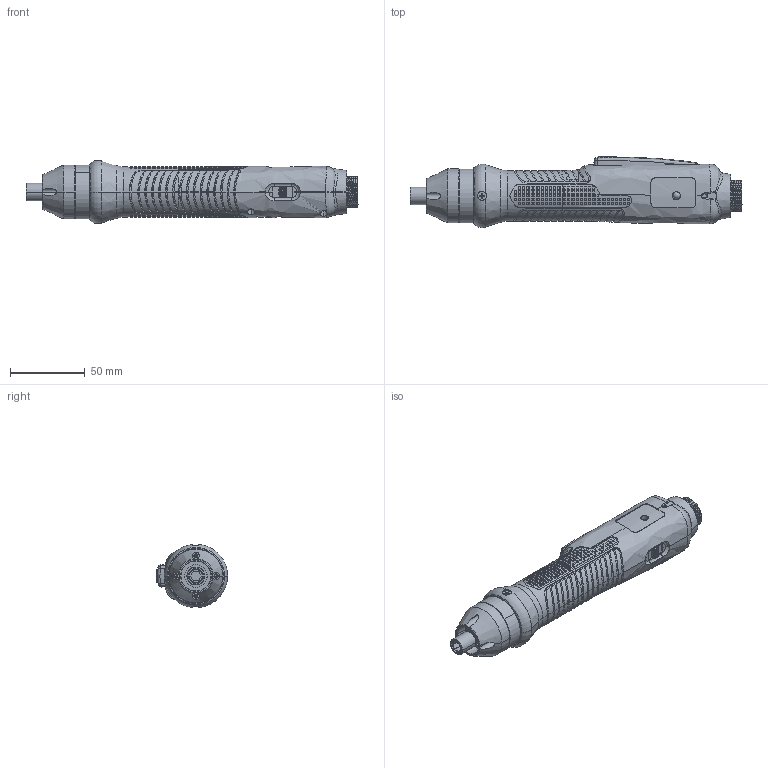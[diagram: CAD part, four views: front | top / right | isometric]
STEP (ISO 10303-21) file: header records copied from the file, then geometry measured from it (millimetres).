
FILE_DESCRIPTION((''),'2;1');
FILE_NAME('MD2601_2602_ASM','2017-09-18T16:09:48',('hantas-design'),(''),'CREO PARAMETRIC BY PTC INC, 2016510','CREO PARAMETRIC BY PTC INC, 2016510','');
FILE_SCHEMA(('CONFIG_CONTROL_DESIGN'));
Products named in the file (35): SINK_HEAD_KS_1023_FC-_M3_X_8-S; MD26-SHORT-LOWER-HOUSING; BEARING_689ZZ_1; C-RING_1; COLLAR-SPRING_1; BALL-1_5_1; 5000705_BIT_COLLAR_A_FOR_SD-600; ISTW-09_SNAP_RING__1; BEARING-SPACER_1; 5000704_BITSOCKET_A_FOR_SD-600_; BIT-SOCKET_ASM_3_ASM_ASM; PIN-2_5X9L_1; BEARING-HOUSING-MD2601_3; BEARING-COVER-MD2601_3; BEARING-CASE_ASM_7_ASM_ASM; BEARING-CASE_ASM_ASM_ASM; FR-SWITCH-COVER-LABEL_1; FR-SWITCH-COVER_6; FR-SWITCH-COVER_ASM_1_ASM_ASM; FR-SWITCH-COVER_ASM_ASM_ASM; LED_AF0; MD26-PCB; SENSOR_1; 1_5-PIN-FEMALE_3; 14P-INSULATOR-CONNECTOR_11; 14P-N-HOUSING_2; 2-PIN-FEMALE_1; 14P-INSULATOR-COVER_8; INSULATOR-ASSY_ASM_4_ASM_ASM; 14P-N-CONNECTOR_ASM_ASM; MD26-PCB_ASSY_ASM_ASM; MD32-LEVER; MD26-SHORT-UPPER-HOUSING; MD2601_ASM_ASM; MD2601_2602_ASM
Assembly tree (50 placements, depth 6):
  MD2601_2602_ASM
    MD2601_ASM_ASM
      SINK_HEAD_KS_1023_FC-_M3_X_8-S  x2
      MD26-SHORT-LOWER-HOUSING
      BEARING-CASE_ASM_ASM_ASM
        BEARING-CASE_ASM_7_ASM_ASM
          BIT-SOCKET_ASM_3_ASM_ASM
            BEARING_689ZZ_1  x2
            C-RING_1
            COLLAR-SPRING_1
            BALL-1_5_1  x2
            5000705_BIT_COLLAR_A_FOR_SD-600
            ISTW-09_SNAP_RING__1
            BEARING-SPACER_1
            5000704_BITSOCKET_A_FOR_SD-600_
          PIN-2_5X9L_1
          BEARING-HOUSING-MD2601_3
          BEARING-COVER-MD2601_3
      FR-SWITCH-COVER_ASM_ASM_ASM
        FR-SWITCH-COVER_ASM_1_ASM_ASM
          FR-SWITCH-COVER-LABEL_1
          FR-SWITCH-COVER_6
      MD26-PCB_ASSY_ASM_ASM
        LED_AF0
        MD26-PCB
        SENSOR_1  x2
        14P-N-CONNECTOR_ASM_ASM
          INSULATOR-ASSY_ASM_4_ASM_ASM
            1_5-PIN-FEMALE_3  x11
            14P-INSULATOR-CONNECTOR_11
            14P-N-HOUSING_2
            2-PIN-FEMALE_1  x3
            14P-INSULATOR-COVER_8
      MD32-LEVER
      MD26-SHORT-UPPER-HOUSING
Bounding box: 222.08 x 47.6 x 41.97 mm (x, y, z)
Volume: 99247.5 mm3; surface area: 83286.9 mm2
Topology: 38 solids, 38 shells, 4343 faces, 11608 edges, 7713 vertices
Faces by surface type: plane 2648, cylinder 1090, bspline 298, cone 189, torus 61, extrusion 36, sphere 21
Entity records: 147192 total; most frequent: CARTESIAN_POINT 53394, ORIENTED_EDGE 20670, DIRECTION 17150, EDGE_CURVE 10335, VERTEX_POINT 6903, AXIS2_PLACEMENT_3D 5738, VECTOR 5674, LINE 5638
